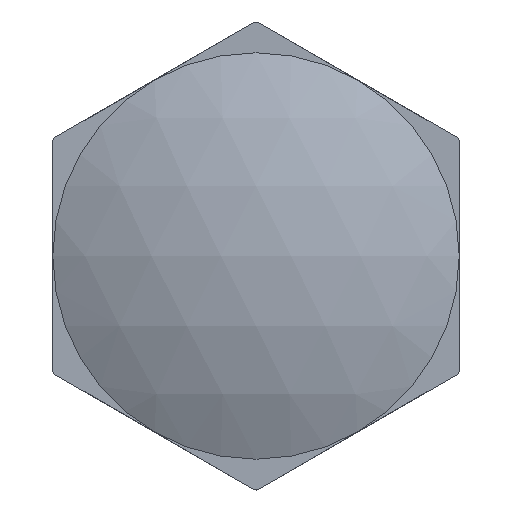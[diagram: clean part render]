
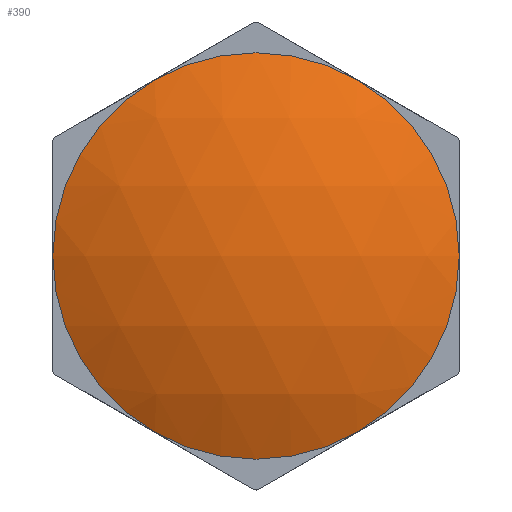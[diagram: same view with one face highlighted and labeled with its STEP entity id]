
A CAD part, left-side view. The second image highlights one B-rep face of the part: STEP entity #390.
In plain terms, the highlighted spherical face has radius 57.188 mm.
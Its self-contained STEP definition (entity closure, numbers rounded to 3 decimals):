
#16=SPHERICAL_SURFACE('',#438,57.188);
#58=FACE_OUTER_BOUND('',#86,.T.);
#86=EDGE_LOOP('',(#353,#354,#355,#356,#357,#358));
#156=CIRCLE('',#408,25.5);
#159=CIRCLE('',#415,25.5);
#161=CIRCLE('',#419,25.5);
#163=CIRCLE('',#424,25.5);
#164=CIRCLE('',#426,25.5);
#165=CIRCLE('',#428,25.5);
#175=VERTEX_POINT('',#578);
#188=VERTEX_POINT('',#610);
#190=VERTEX_POINT('',#616);
#192=VERTEX_POINT('',#624);
#195=VERTEX_POINT('',#634);
#198=VERTEX_POINT('',#645);
#229=EDGE_CURVE('',#188,#190,#156,.T.);
#237=EDGE_CURVE('',#195,#192,#159,.T.);
#243=EDGE_CURVE('',#198,#195,#161,.T.);
#248=EDGE_CURVE('',#175,#198,#163,.T.);
#249=EDGE_CURVE('',#190,#175,#164,.T.);
#251=EDGE_CURVE('',#192,#188,#165,.T.);
#353=ORIENTED_EDGE('',*,*,#251,.T.);
#354=ORIENTED_EDGE('',*,*,#229,.T.);
#355=ORIENTED_EDGE('',*,*,#249,.T.);
#356=ORIENTED_EDGE('',*,*,#248,.T.);
#357=ORIENTED_EDGE('',*,*,#243,.T.);
#358=ORIENTED_EDGE('',*,*,#237,.T.);
#390=ADVANCED_FACE('',(#58),#16,.T.);
#408=AXIS2_PLACEMENT_3D('',#618,#488,#489);
#415=AXIS2_PLACEMENT_3D('',#635,#507,#508);
#419=AXIS2_PLACEMENT_3D('',#646,#519,#520);
#424=AXIS2_PLACEMENT_3D('',#655,#532,#533);
#426=AXIS2_PLACEMENT_3D('',#657,#536,#537);
#428=AXIS2_PLACEMENT_3D('',#660,#541,#542);
#438=AXIS2_PLACEMENT_3D('',#673,#561,#562);
#488=DIRECTION('center_axis',(-1.,0.,0.));
#489=DIRECTION('ref_axis',(0.,0.,1.));
#507=DIRECTION('center_axis',(-1.,0.,0.));
#508=DIRECTION('ref_axis',(0.,0.,1.));
#519=DIRECTION('center_axis',(-1.,0.,0.));
#520=DIRECTION('ref_axis',(0.,0.,1.));
#532=DIRECTION('center_axis',(-1.,0.,0.));
#533=DIRECTION('ref_axis',(0.,0.,1.));
#536=DIRECTION('center_axis',(-1.,0.,0.));
#537=DIRECTION('ref_axis',(0.,0.,1.));
#541=DIRECTION('center_axis',(-1.,0.,0.));
#542=DIRECTION('ref_axis',(0.,0.,1.));
#561=DIRECTION('center_axis',(0.,0.,1.));
#562=DIRECTION('ref_axis',(1.,0.,0.));
#578=CARTESIAN_POINT('',(6.,25.5,0.));
#610=CARTESIAN_POINT('',(6.,-12.75,22.084));
#616=CARTESIAN_POINT('',(6.,12.75,22.084));
#618=CARTESIAN_POINT('Origin',(6.,0.,0.));
#624=CARTESIAN_POINT('',(6.,-25.5,0.));
#634=CARTESIAN_POINT('',(6.,-12.75,-22.084));
#635=CARTESIAN_POINT('Origin',(6.,0.,0.));
#645=CARTESIAN_POINT('',(6.,12.75,-22.084));
#646=CARTESIAN_POINT('Origin',(6.,0.,0.));
#655=CARTESIAN_POINT('Origin',(6.,0.,0.));
#657=CARTESIAN_POINT('Origin',(6.,0.,0.));
#660=CARTESIAN_POINT('Origin',(6.,0.,0.));
#673=CARTESIAN_POINT('Origin',(57.188,0.,0.));
